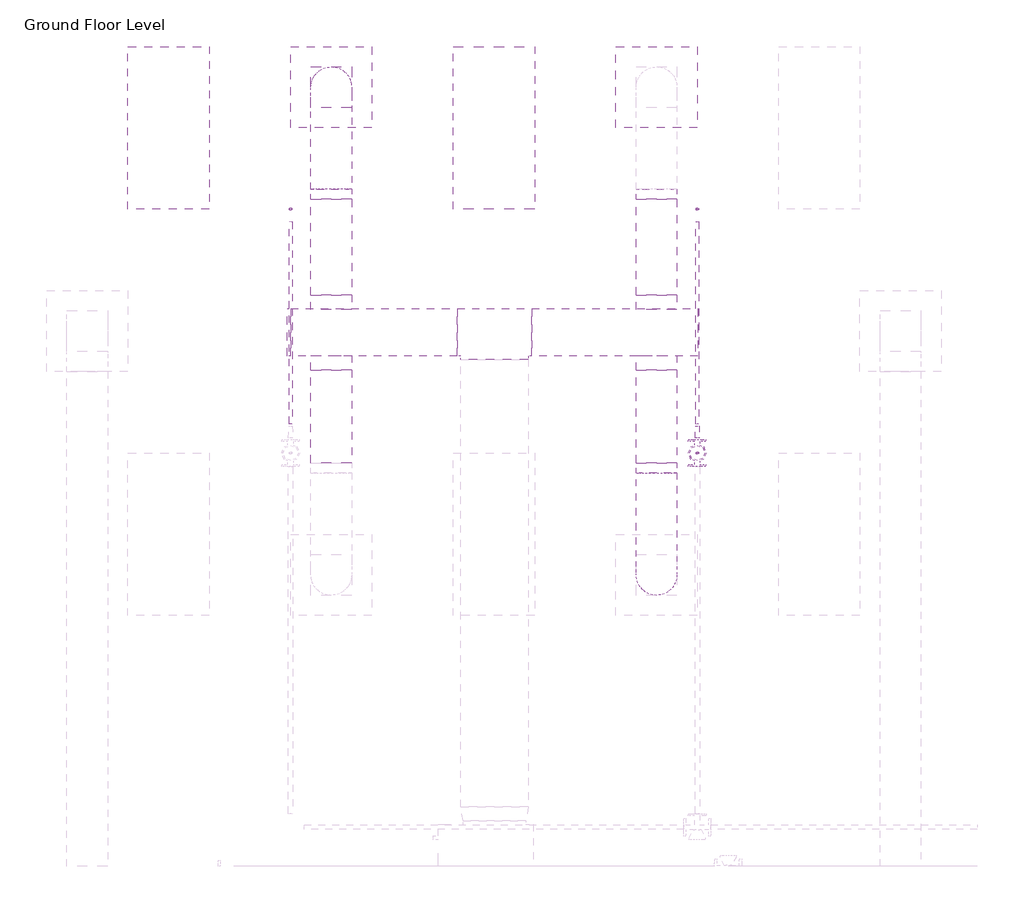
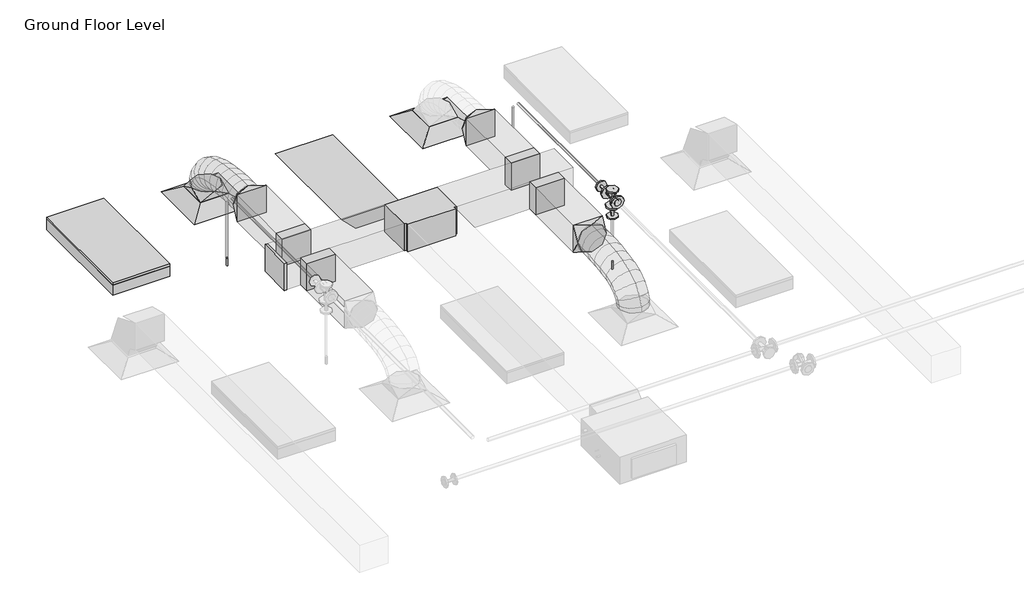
# One storey, part 55 of 74: 10 duct fittings, 8 duct segments, 5 pipe segments, 3 fire suppression terminals, 3 pipe fittings, 2 air terminals, 2 light fixtures.
"""IFC4 building model written with IfcOpenShell, lengths in millimetres."""

from ifc_helpers import new_model, si_unit, point, frame, frame_2d, origin, place, context, project, spatial, polyline, circle_curve, ellipse_curve, trimmed, segment, composite_curve, outline, extrude, transform, mapped, element, save
from ifc_brep_helpers import plane_surface, cylinder_surface, advanced_brep
from components import m_return_diffuser_600_x_600_face_300_x_300_connection_ff221211, m_rectangular_endcap_standard_eed78c44, m_rectangular_takeoff_standard_cb0ccb98, m_rectangular_takeoff_standard_2be5eba1, m_rectangular_tee_standard_9fc1ddf1, m_rectangular_to_round_transition_angle_45_degree_641efff0, m_sprinkler_dry_pendent_hosted_15_mm_dry_pendent_9bda8e11, m_emergency_recessed_lighting_fixture_600x1200_277_5b10b25d, m_troffer_light_parabolic_rectangular1_0600x1200mm_4_lamp_86473d4a, m_reducer_flanged_cs_class_150_standard_d42b2106, m_tee_round_base_flanged_cs_class_150_standard_7e5987a1

model = new_model("IFC4")

# Units and contexts
model_context = context("Model", 3, world=origin())
ifc_project = project(units=[si_unit("LENGTHUNIT", "METRE", prefix="MILLI")], contexts=[model_context])

# Site, building, storey
site = spatial("IfcSite", under=ifc_project)
building = spatial("IfcBuilding", under=site)
storey = spatial("IfcBuildingStorey", under=building, Name="Ground Floor Level", Elevation=900.0)

# Air terminals
placement = place(None, origin())
m_return_diffuser_600_x_600_face_300_x_300_connection_shape = m_return_diffuser_600_x_600_face_300_x_300_connection_ff221211(model_context)
element("IfcAirTerminal", 1, ObjectType="M_Supply Diffuser : 600 x 600 Face 300 x 300 Connection", at=placement, inside=storey, context=model_context, shape_type="MappedRepresentation", body=[
    mapped(m_return_diffuser_600_x_600_face_300_x_300_connection_shape, transform((-19137.2327605, 20535.2153534, 3650.0), x_axis=(1.0, 0.0, 0.0), y_axis=(0.0, 1.0, 0.0), z_axis=(0.0, 0.0, 1.0))),
])
element("IfcAirTerminal", 2, ObjectType="M_Supply Diffuser : 600 x 600 Face 300 x 300 Connection", at=placement, inside=storey, context=model_context, shape_type="MappedRepresentation", body=[
    mapped(m_return_diffuser_600_x_600_face_300_x_300_connection_shape, transform((-16737.2327605, 20535.2153534, 3650.0), x_axis=(1.0, 0.0, 0.0), y_axis=(0.0, 1.0, 0.0), z_axis=(0.0, 0.0, 1.0))),
])

# Duct fittings
m_rectangular_endcap_standard_shape = m_rectangular_endcap_standard_eed78c44(model_context)
element("IfcDuctFitting", 3, ObjectType="M_Rectangular Endcap : Standard", at=placement, inside=storey, context=model_context, shape_type="MappedRepresentation", body=[
    mapped(m_rectangular_endcap_standard_shape, transform((-19437.2326293, 18724.6783949, 4099.9991374), x_axis=(-0.9999999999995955, 0.0, -8.994654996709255e-07), y_axis=(0.0, -1.0000000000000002, 0.0), z_axis=(-8.994654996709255e-07, 0.0, 0.9999999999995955))),
])
m_rectangular_takeoff_standard_shape = m_rectangular_takeoff_standard_cb0ccb98(model_context)
element("IfcDuctFitting", 4, ObjectType="M_Rectangular Takeoff : Standard", at=placement, inside=storey, context=model_context, shape_type="MappedRepresentation", body=[
    mapped(m_rectangular_takeoff_standard_shape, transform((-16737.2327605, 18899.6783949, 4099.9993619), x_axis=(0.0, 1.0, 0.0), y_axis=(1.0, 0.0, 0.0), z_axis=(0.0, 0.0, -1.0))),
])
element("IfcDuctFitting", 5, ObjectType="M_Rectangular Takeoff : Standard", at=placement, inside=storey, context=model_context, shape_type="MappedRepresentation", body=[
    mapped(m_rectangular_takeoff_standard_shape, transform((-19137.2327605, 18549.6783949, 4099.9994072), x_axis=(0.0, -1.0, 0.0), y_axis=(-1.0, 0.0, 0.0), z_axis=(0.0, 0.0, -1.0))),
])
m_rectangular_takeoff_standard_2_shape = m_rectangular_takeoff_standard_2be5eba1(model_context)
element("IfcDuctFitting", 6, ObjectType="M_Rectangular Takeoff : Standard", at=placement, inside=storey, context=model_context, shape_type="MappedRepresentation", body=[
    mapped(m_rectangular_takeoff_standard_2_shape, transform((-19137.2327605, 18899.6783949, 4099.9994072), x_axis=(0.0, 1.0, 0.0), y_axis=(1.0, 0.0, 0.0), z_axis=(0.0, 0.0, -1.0))),
])
element("IfcDuctFitting", 7, ObjectType="M_Rectangular Takeoff : Standard", at=placement, inside=storey, context=model_context, shape_type="MappedRepresentation", body=[
    mapped(m_rectangular_takeoff_standard_2_shape, transform((-16737.2327605, 18549.6783949, 4099.9993619), x_axis=(0.0, -1.0, 0.0), y_axis=(-1.0, 0.0, 0.0), z_axis=(0.0, 0.0, -1.0))),
])
m_rectangular_tee_standard_shape = m_rectangular_tee_standard_9fc1ddf1(model_context)
element("IfcDuctFitting", 8, ObjectType="M_Rectangular Tee : Standard", at=placement, inside=storey, context=model_context, shape_type="MappedRepresentation", body=[
    mapped(m_rectangular_tee_standard_shape, transform((-17933.7327605, 18724.6783949, 4100.0001212), x_axis=(0.999999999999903, 0.0, -4.406637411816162e-07), y_axis=(-1.704451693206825e-12, 0.9999999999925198, -3.867919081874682e-06), z_axis=(4.406637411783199e-07, 3.867919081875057e-06, 0.9999999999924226))),
])
m_rectangular_to_round_transition_angle_45_degree_shape = m_rectangular_to_round_transition_angle_45_degree_641efff0(model_context)
element("IfcDuctFitting", 9, ObjectType="M_Rectangular to Round Transition - Angle : 45 Degree", at=placement, inside=storey, context=model_context, shape_type="MappedRepresentation", body=[
    mapped(m_rectangular_to_round_transition_angle_45_degree_shape, transform((-19137.2327605, 20535.2153534, 3751.6), x_axis=(0.0, 0.0, 1.0), y_axis=(-1.0, 0.0, 0.0), z_axis=(0.0, -1.0, 0.0))),
])
element("IfcDuctFitting", 10, ObjectType="M_Rectangular to Round Transition - Angle : 45 Degree", at=placement, inside=storey, context=model_context, shape_type="MappedRepresentation", body=[
    mapped(m_rectangular_to_round_transition_angle_45_degree_shape, transform((-19137.2327605, 19707.8788293, 4099.9994072), x_axis=(0.0, 1.0, 0.0), y_axis=(-1.0, 0.0, 0.0), z_axis=(0.0, 0.0, 1.0))),
])
element("IfcDuctFitting", 11, ObjectType="M_Rectangular to Round Transition - Angle : 45 Degree", at=placement, inside=storey, context=model_context, shape_type="MappedRepresentation", body=[
    mapped(m_rectangular_to_round_transition_angle_45_degree_shape, transform((-16737.2327605, 19707.878784, 4099.9993619), x_axis=(0.0, 1.0, 0.0), y_axis=(-1.0, 0.0, 0.0), z_axis=(0.0, 0.0, 1.0))),
])
element("IfcDuctFitting", 12, ObjectType="M_Rectangular to Round Transition - Angle : 45 Degree", at=placement, inside=storey, context=model_context, shape_type="MappedRepresentation", body=[
    mapped(m_rectangular_to_round_transition_angle_45_degree_shape, transform((-16737.2327605, 17762.5519228, 4099.9993619), x_axis=(0.0, -1.0, 0.0), y_axis=(1.0, 0.0, 0.0), z_axis=(0.0, 0.0, 1.0))),
])

# Duct segments
element("IfcDuctSegment", 13, ObjectType="Flex - Round", at=placement, inside=storey, context=model_context, shape_type="AdvancedBrep", body=[
    advanced_brep(
    [(-18987.2327605, 20535.2153534, 3826.6), (-19137.2327605, 20385.2153534, 3826.6), (-19287.2327605, 20535.2153534, 3826.6), (-19137.2327605, 20685.2153534, 3826.6), (-18987.2327605, 20535.2153534, 3857.9377363), (-19137.2327605, 20385.2153534, 3832.2944836), (-19287.2327605, 20535.2153534, 3857.9377363), (-19137.2327605, 20685.2153534, 3883.580989), (-18987.2327605, 20518.1994044, 3906.2505836), (-19137.2327605, 20384.4614628, 3834.4349814), (-19287.2327605, 20518.1994044, 3906.2505836), (-19137.2327605, 20651.937346, 3978.0661859), (-18987.2327605, 20471.0154793, 3968.711286), (-19137.2327605, 20366.8096815, 3857.8018941), (-19287.2327605, 20471.0154793, 3968.711286), (-19137.2327605, 20575.2212771, 4079.6206779), (-18987.2327605, 20399.4594609, 4016.0699627), (-19137.2327605, 20330.5255652, 3881.8161947), (-19287.2327605, 20399.4594609, 4016.0699627), (-19137.2327605, 20468.3933566, 4150.3237308), (-18987.2327605, 20309.327232, 4050.4144697), (-19137.2327605, 20265.7666436, 3906.4923095), (-19287.2327605, 20309.327232, 4050.4144697), (-19137.2327605, 20352.8878205, 4194.3366298), (-18987.2327605, 20206.4146755, 4073.8326625), (-19137.2327605, 20179.8539172, 3926.0421182), (-19287.2327605, 20206.4146755, 4073.8326625), (-19137.2327605, 20232.9754339, 4221.6232067), (-18987.2327605, 20096.5176742, 4088.4123969), (-19137.2327605, 20081.3669159, 3939.1081192), (-19287.2327605, 20096.5176742, 4088.4123969), (-19137.2327605, 20111.6684325, 4237.7166746), (-18987.2327605, 19985.4321108, 4096.2415287), (-19137.2327605, 19977.9268947, 3946.3984054), (-19287.2327605, 19985.4321108, 4096.2415287), (-19137.2327605, 19992.937327, 4246.0846519), (-18987.2327605, 19878.9538683, 4099.4079135), (-19137.2327605, 19876.262441, 3949.4216408), (-19287.2327605, 19878.9538683, 4099.4079135), (-19137.2327605, 19881.6452955, 4249.3941863), (-18987.2327605, 19782.8788293, 4099.9994072), (-19137.2327605, 19783.8022988, 4249.9965645), (-19287.2327605, 19782.8788293, 4099.9994072), (-19137.2327605, 19781.9553598, 3950.0022499)],
    [
        (0, 1, circle_curve(frame((-19137.2327605, 20535.2153534, 3826.6), z_axis=(0.0, 0.0, -1.0), x_axis=(1.0, 0.0, 0.0)), 150.0)),
        (1, 2, circle_curve(frame((-19137.2327605, 20535.2153534, 3826.6), z_axis=(0.0, 0.0, -1.0), x_axis=(1.0, 0.0, 0.0)), 150.0)),
        (2, 3, circle_curve(frame((-19137.2327605, 20535.2153534, 3826.6), z_axis=(0.0, 0.0, -1.0), x_axis=(1.0, 0.0, 0.0)), 150.0)),
        (3, 0, circle_curve(frame((-19137.2327605, 20535.2153534, 3826.6), z_axis=(0.0, 0.0, -1.0), x_axis=(1.0, 0.0, 0.0)), 150.0)),
        (0, 4),
        (4, 5, ellipse_curve(frame((-19137.2327605, 20535.2153534, 3857.9377363), z_axis=(0.0, 0.16851034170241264, -0.9856998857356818), x_axis=(0.0, -0.9856998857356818, -0.16851034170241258)), 152.1761361, 150.0)),
        (5, 1),
        (5, 6, ellipse_curve(frame((-19137.2327605, 20535.2153534, 3857.9377363), z_axis=(0.0, 0.16851034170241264, -0.9856998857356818), x_axis=(0.0, -0.9856998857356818, -0.16851034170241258)), 152.1761361, 150.0)),
        (6, 2),
        (6, 7, ellipse_curve(frame((-19137.2327605, 20535.2153534, 3857.9377363), z_axis=(0.0, 0.16851034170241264, -0.9856998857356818), x_axis=(0.0, -0.9856998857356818, -0.16851034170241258)), 152.1761361, 150.0)),
        (7, 3),
        (7, 4, ellipse_curve(frame((-19137.2327605, 20535.2153534, 3857.9377363), z_axis=(0.0, 0.16851034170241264, -0.9856998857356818), x_axis=(0.0, -0.9856998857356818, -0.16851034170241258)), 152.1761361, 150.0)),
        (4, 8),
        (8, 9, ellipse_curve(frame((-19137.2327605, 20518.1994044, 3906.2505836), z_axis=(0.0, 0.4730927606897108, -0.8810126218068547), x_axis=(0.0, -0.8810126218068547, -0.47309276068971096)), 151.8002561, 150.0)),
        (9, 5),
        (9, 10, ellipse_curve(frame((-19137.2327605, 20518.1994044, 3906.2505836), z_axis=(0.0, 0.4730927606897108, -0.8810126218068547), x_axis=(0.0, -0.8810126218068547, -0.47309276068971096)), 151.8002561, 150.0)),
        (10, 6),
        (10, 11, ellipse_curve(frame((-19137.2327605, 20518.1994044, 3906.2505836), z_axis=(0.0, 0.4730927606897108, -0.8810126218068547), x_axis=(0.0, -0.8810126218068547, -0.47309276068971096)), 151.8002561, 150.0)),
        (11, 7),
        (11, 8, ellipse_curve(frame((-19137.2327605, 20518.1994044, 3906.2505836), z_axis=(0.0, 0.4730927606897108, -0.8810126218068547), x_axis=(0.0, -0.8810126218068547, -0.47309276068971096)), 151.8002561, 150.0)),
        (8, 12),
        (12, 13, ellipse_curve(frame((-19137.2327605, 20471.0154793, 3968.711286), z_axis=(0.0, 0.7287884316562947, -0.6847389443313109), x_axis=(0.0, -0.6847389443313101, -0.7287884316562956)), 152.1832498, 150.0)),
        (13, 9),
        (13, 14, ellipse_curve(frame((-19137.2327605, 20471.0154793, 3968.711286), z_axis=(0.0, 0.7287884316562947, -0.6847389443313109), x_axis=(0.0, -0.6847389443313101, -0.7287884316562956)), 152.1832498, 150.0)),
        (14, 10),
        (14, 15, ellipse_curve(frame((-19137.2327605, 20471.0154793, 3968.711286), z_axis=(0.0, 0.7287884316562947, -0.6847389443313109), x_axis=(0.0, -0.6847389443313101, -0.7287884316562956)), 152.1832498, 150.0)),
        (15, 11),
        (15, 12, ellipse_curve(frame((-19137.2327605, 20471.0154793, 3968.711286), z_axis=(0.0, 0.7287884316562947, -0.6847389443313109), x_axis=(0.0, -0.6847389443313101, -0.7287884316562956)), 152.1832498, 150.0)),
        (12, 16),
        (16, 17, ellipse_curve(frame((-19137.2327605, 20399.4594609, 4016.0699627), z_axis=(0.0, 0.8895864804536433, -0.45676678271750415), x_axis=(0.0, -0.4567667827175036, -0.8895864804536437)), 150.9170508, 150.0)),
        (17, 13),
        (17, 18, ellipse_curve(frame((-19137.2327605, 20399.4594609, 4016.0699627), z_axis=(0.0, 0.8895864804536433, -0.45676678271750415), x_axis=(0.0, -0.4567667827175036, -0.8895864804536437)), 150.9170508, 150.0)),
        (18, 14),
        (18, 19, ellipse_curve(frame((-19137.2327605, 20399.4594609, 4016.0699627), z_axis=(0.0, 0.8895864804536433, -0.45676678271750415), x_axis=(0.0, -0.4567667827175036, -0.8895864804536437)), 150.9170508, 150.0)),
        (19, 15),
        (19, 16, ellipse_curve(frame((-19137.2327605, 20399.4594609, 4016.0699627), z_axis=(0.0, 0.8895864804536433, -0.45676678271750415), x_axis=(0.0, -0.4567667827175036, -0.8895864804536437)), 150.9170508, 150.0)),
        (16, 20),
        (20, 21, ellipse_curve(frame((-19137.2327605, 20309.327232, 4050.4144697), z_axis=(0.0, 0.9571206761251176, -0.28968950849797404), x_axis=(0.0, -0.2896895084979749, -0.9571206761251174)), 150.3699207, 150.0)),
        (21, 17),
        (21, 22, ellipse_curve(frame((-19137.2327605, 20309.327232, 4050.4144697), z_axis=(0.0, 0.9571206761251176, -0.28968950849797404), x_axis=(0.0, -0.2896895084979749, -0.9571206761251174)), 150.3699207, 150.0)),
        (22, 18),
        (22, 23, ellipse_curve(frame((-19137.2327605, 20309.327232, 4050.4144697), z_axis=(0.0, 0.9571206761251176, -0.28968950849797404), x_axis=(0.0, -0.2896895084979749, -0.9571206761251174)), 150.3699207, 150.0)),
        (23, 19),
        (23, 20, ellipse_curve(frame((-19137.2327605, 20309.327232, 4050.4144697), z_axis=(0.0, 0.9571206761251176, -0.28968950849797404), x_axis=(0.0, -0.2896895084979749, -0.9571206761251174)), 150.3699207, 150.0)),
        (20, 24),
        (24, 25, ellipse_curve(frame((-19137.2327605, 20206.4146755, 4073.8326625), z_axis=(0.0, 0.9842315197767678, -0.17688503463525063), x_axis=(0.0, -0.17688503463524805, -0.9842315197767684)), 150.1583126, 150.0)),
        (25, 21),
        (25, 26, ellipse_curve(frame((-19137.2327605, 20206.4146755, 4073.8326625), z_axis=(0.0, 0.9842315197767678, -0.17688503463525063), x_axis=(0.0, -0.17688503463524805, -0.9842315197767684)), 150.1583126, 150.0)),
        (26, 22),
        (26, 27, ellipse_curve(frame((-19137.2327605, 20206.4146755, 4073.8326625), z_axis=(0.0, 0.9842315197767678, -0.17688503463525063), x_axis=(0.0, -0.17688503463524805, -0.9842315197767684)), 150.1583126, 150.0)),
        (27, 23),
        (27, 24, ellipse_curve(frame((-19137.2327605, 20206.4146755, 4073.8326625), z_axis=(0.0, 0.9842315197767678, -0.17688503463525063), x_axis=(0.0, -0.17688503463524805, -0.9842315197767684)), 150.1583126, 150.0)),
        (24, 28),
        (28, 29, ellipse_curve(frame((-19137.2327605, 20096.5176742, 4088.4123969), z_axis=(0.0, 0.994890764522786, -0.10095725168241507), x_axis=(0.0, -0.10095725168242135, -0.9948907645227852)), 150.0710259, 150.0)),
        (29, 25),
        (29, 30, ellipse_curve(frame((-19137.2327605, 20096.5176742, 4088.4123969), z_axis=(0.0, 0.994890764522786, -0.10095725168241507), x_axis=(0.0, -0.10095725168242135, -0.9948907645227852)), 150.0710259, 150.0)),
        (30, 26),
        (30, 31, ellipse_curve(frame((-19137.2327605, 20096.5176742, 4088.4123969), z_axis=(0.0, 0.994890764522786, -0.10095725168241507), x_axis=(0.0, -0.10095725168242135, -0.9948907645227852)), 150.0710259, 150.0)),
        (31, 27),
        (31, 28, ellipse_curve(frame((-19137.2327605, 20096.5176742, 4088.4123969), z_axis=(0.0, 0.994890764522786, -0.10095725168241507), x_axis=(0.0, -0.10095725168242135, -0.9948907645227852)), 150.0710259, 150.0)),
        (28, 32),
        (32, 33, ellipse_curve(frame((-19137.2327605, 19985.4321108, 4096.2415287), z_axis=(0.0, 0.9987479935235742, -0.05002444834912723), x_axis=(0.0, -0.05002444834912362, -0.9987479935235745)), 150.030963, 150.0)),
        (33, 29),
        (33, 34, ellipse_curve(frame((-19137.2327605, 19985.4321108, 4096.2415287), z_axis=(0.0, 0.9987479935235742, -0.05002444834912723), x_axis=(0.0, -0.05002444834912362, -0.9987479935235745)), 150.030963, 150.0)),
        (34, 30),
        (34, 35, ellipse_curve(frame((-19137.2327605, 19985.4321108, 4096.2415287), z_axis=(0.0, 0.9987479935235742, -0.05002444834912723), x_axis=(0.0, -0.05002444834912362, -0.9987479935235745)), 150.030963, 150.0)),
        (35, 31),
        (35, 32, ellipse_curve(frame((-19137.2327605, 19985.4321108, 4096.2415287), z_axis=(0.0, 0.9987479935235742, -0.05002444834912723), x_axis=(0.0, -0.05002444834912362, -0.9987479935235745)), 150.030963, 150.0)),
        (32, 36),
        (36, 37, ellipse_curve(frame((-19137.2327605, 19878.9538683, 4099.4079135), z_axis=(0.0, 0.9998390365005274, -0.017941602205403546), x_axis=(0.0, -0.01794160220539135, -0.9998390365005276)), 150.0104189, 150.0)),
        (37, 33),
        (37, 38, ellipse_curve(frame((-19137.2327605, 19878.9538683, 4099.4079135), z_axis=(0.0, 0.9998390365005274, -0.017941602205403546), x_axis=(0.0, -0.01794160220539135, -0.9998390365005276)), 150.0104189, 150.0)),
        (38, 34),
        (38, 39, ellipse_curve(frame((-19137.2327605, 19878.9538683, 4099.4079135), z_axis=(0.0, 0.9998390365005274, -0.017941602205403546), x_axis=(0.0, -0.01794160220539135, -0.9998390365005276)), 150.0104189, 150.0)),
        (39, 35),
        (39, 36, ellipse_curve(frame((-19137.2327605, 19878.9538683, 4099.4079135), z_axis=(0.0, 0.9998390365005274, -0.017941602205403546), x_axis=(0.0, -0.01794160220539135, -0.9998390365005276)), 150.0104189, 150.0)),
        (40, 41, circle_curve(frame((-19137.2327605, 19782.8788293, 4099.9994072), z_axis=(0.0, -0.9999810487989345, 0.006156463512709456), x_axis=(1.0, 0.0, 0.0)), 150.0)),
        (41, 42, circle_curve(frame((-19137.2327605, 19782.8788293, 4099.9994072), z_axis=(0.0, -0.9999810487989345, 0.006156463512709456), x_axis=(1.0, 0.0, 0.0)), 150.0)),
        (42, 43, circle_curve(frame((-19137.2327605, 19782.8788293, 4099.9994072), z_axis=(0.0, -0.9999810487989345, 0.006156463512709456), x_axis=(1.0, 0.0, 0.0)), 150.0)),
        (43, 40, circle_curve(frame((-19137.2327605, 19782.8788293, 4099.9994072), z_axis=(0.0, -0.9999810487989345, 0.006156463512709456), x_axis=(1.0, 0.0, 0.0)), 150.0)),
        (36, 40),
        (43, 37),
        (42, 38),
        (41, 39),
    ],
    [
        plane_surface(frame((-19137.2327605, 20385.2153534, 3826.6), z_axis=(0.0, 0.0, -1.0), x_axis=(1.0, 0.0, 0.0))),
        cylinder_surface(frame((-19137.2327605, 20535.2153534, 3826.6), z_axis=(0.0, 0.0, -1.0), x_axis=(1.0, 0.0, 0.0)), 150.0),
        cylinder_surface(frame((-19137.2327605, 20535.2153534, 3857.9377363), z_axis=(0.0, 0.33220124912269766, -0.9432085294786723), x_axis=(1.0, 0.0, 0.0)), 150.0),
        cylinder_surface(frame((-19137.2327605, 20518.1994044, 3906.2505836), z_axis=(0.0, 0.602763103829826, -0.7979201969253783), x_axis=(1.0, 0.0, 0.0)), 150.0),
        cylinder_surface(frame((-19137.2327605, 20471.0154793, 3968.711286), z_axis=(0.0, 0.8339030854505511, -0.5519109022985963), x_axis=(1.0, 0.0, 0.0)), 150.0),
        cylinder_surface(frame((-19137.2327605, 20399.4594609, 4016.0699627), z_axis=(0.0, 0.9344586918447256, -0.3560715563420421), x_axis=(1.0, 0.0, 0.0)), 150.0),
        cylinder_surface(frame((-19137.2327605, 20309.327232, 4050.4144697), z_axis=(0.0, 0.9750734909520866, -0.22188214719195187), x_axis=(1.0, 0.0, 0.0)), 150.0),
        cylinder_surface(frame((-19137.2327605, 20206.4146755, 4073.8326625), z_axis=(0.0, 0.9913141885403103, -0.1315149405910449), x_axis=(1.0, 0.0, 0.0)), 150.0),
        cylinder_surface(frame((-19137.2327605, 20096.5176742, 4088.4123969), z_axis=(0.0, 0.9975256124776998, -0.07030400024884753), x_axis=(1.0, 0.0, 0.0)), 150.0),
        cylinder_surface(frame((-19137.2327605, 19985.4321108, 4096.2415287), z_axis=(0.0, 0.9995581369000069, -0.029724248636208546), x_axis=(1.0, 0.0, 0.0)), 150.0),
        plane_surface(frame((-19137.2327605, 19781.9553598, 3950.0022499), z_axis=(0.0, -0.9999810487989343, 0.0061564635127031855), x_axis=(1.0, 0.0, 0.0))),
        cylinder_surface(frame((-19137.2327605, 19878.9538683, 4099.4079135), z_axis=(0.0, 0.9999810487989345, -0.006156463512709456), x_axis=(1.0, 0.0, 0.0)), 150.0),
    ],
    [
        (0, [[1, 2, 3, 4]]),
        (1, [[-1, 5, 6, 7]]),
        (1, [[-2, -7, 8, 9]]),
        (1, [[-3, -9, 10, 11]]),
        (1, [[-4, -11, 12, -5]]),
        (2, [[-6, 13, 14, 15]]),
        (2, [[-8, -15, 16, 17]]),
        (2, [[-10, -17, 18, 19]]),
        (2, [[-12, -19, 20, -13]]),
        (3, [[-14, 21, 22, 23]]),
        (3, [[-16, -23, 24, 25]]),
        (3, [[-18, -25, 26, 27]]),
        (3, [[-20, -27, 28, -21]]),
        (4, [[-22, 29, 30, 31]]),
        (4, [[-24, -31, 32, 33]]),
        (4, [[-26, -33, 34, 35]]),
        (4, [[-28, -35, 36, -29]]),
        (5, [[-30, 37, 38, 39]]),
        (5, [[-32, -39, 40, 41]]),
        (5, [[-34, -41, 42, 43]]),
        (5, [[-36, -43, 44, -37]]),
        (6, [[-38, 45, 46, 47]]),
        (6, [[-40, -47, 48, 49]]),
        (6, [[-42, -49, 50, 51]]),
        (6, [[-44, -51, 52, -45]]),
        (7, [[-46, 53, 54, 55]]),
        (7, [[-48, -55, 56, 57]]),
        (7, [[-50, -57, 58, 59]]),
        (7, [[-52, -59, 60, -53]]),
        (8, [[-54, 61, 62, 63]]),
        (8, [[-56, -63, 64, 65]]),
        (8, [[-58, -65, 66, 67]]),
        (8, [[-60, -67, 68, -61]]),
        (9, [[-62, 69, 70, 71]]),
        (9, [[-64, -71, 72, 73]]),
        (9, [[-66, -73, 74, 75]]),
        (9, [[-68, -75, 76, -69]]),
        (10, [[77, 78, 79, 80]]),
        (11, [[-70, 81, -80, 82]]),
        (11, [[-72, -82, -79, 83]]),
        (11, [[-74, -83, -78, 84]]),
        (11, [[-76, -84, -77, -81]]),
    ],
),
])
element("IfcDuctSegment", 14, ObjectType="Flex - Round", at=placement, inside=storey, context=model_context, shape_type="AdvancedBrep", body=[
    advanced_brep(
    [(-16587.2327605, 16935.2153534, 3826.6), (-16737.2327605, 16785.2153534, 3826.6), (-16887.2327605, 16935.2153534, 3826.6), (-16737.2327605, 17085.2153534, 3826.6), (-16587.2327605, 16935.2153534, 3857.9377382), (-16737.2327605, 16785.2153534, 3883.5809933), (-16887.2327605, 16935.2153534, 3857.9377382), (-16737.2327605, 17085.2153534, 3832.2944832), (-16587.2327605, 16952.2313036, 3906.2505845), (-16737.2327605, 16818.4933649, 3978.0661927), (-16887.2327605, 16952.2313036, 3906.2505845), (-16737.2327605, 17085.9692424, 3834.4349763), (-16587.2327605, 16999.4152322, 3968.7112839), (-16737.2327605, 16895.2094421, 4079.6206836), (-16887.2327605, 16999.4152322, 3968.7112839), (-16737.2327605, 17103.6210222, 3857.8018842), (-16587.2327605, 17070.9712556, 4016.069955), (-16737.2327605, 17002.0373721, 4150.3237294), (-16887.2327605, 17070.9712556, 4016.069955), (-16737.2327605, 17139.9051391, 3881.8161806), (-16587.2327605, 17161.1034906, 4050.4144545), (-16737.2327605, 17117.5429156, 4194.3366186), (-16887.2327605, 17161.1034906, 4050.4144545), (-16737.2327605, 17204.6640657, 3906.4922903), (-16587.2327605, 17264.0160539, 4073.832639), (-16737.2327605, 17237.4553083, 4221.6231855), (-16887.2327605, 17264.0160539, 4073.832639), (-16737.2327605, 17290.5767996, 3926.0420925), (-16587.2327605, 17373.9130621, 4088.4123653), (-16737.2327605, 17358.7623148, 4237.7166441), (-16887.2327605, 17373.9130621, 4088.4123653), (-16737.2327605, 17389.0638095, 3939.1080865), (-16587.2327605, 17484.9986319, 4096.2414901), (-16737.2327605, 17477.4934243, 4246.0846137), (-16887.2327605, 17484.9986319, 4096.2414901), (-16737.2327605, 17492.5038395, 3946.3983665), (-16587.2327605, 17591.4768799, 4099.4078701), (-16737.2327605, 17588.7854577, 4249.3941429), (-16887.2327605, 17591.4768799, 4099.4078701), (-16737.2327605, 17594.1683021, 3949.4215972), (-16587.2327605, 17687.5519228, 4099.9993619), (-16737.2327605, 17688.4753894, 3950.0022045), (-16887.2327605, 17687.5519228, 4099.9993619), (-16737.2327605, 17686.6284562, 4249.9965192)],
    [
        (0, 1, circle_curve(frame((-16737.2327605, 16935.2153534, 3826.6), z_axis=(0.0, 0.0, -1.0), x_axis=(1.0, 0.0, 0.0)), 150.0)),
        (1, 2, circle_curve(frame((-16737.2327605, 16935.2153534, 3826.6), z_axis=(0.0, 0.0, -1.0), x_axis=(1.0, 0.0, 0.0)), 150.0)),
        (2, 3, circle_curve(frame((-16737.2327605, 16935.2153534, 3826.6), z_axis=(0.0, 0.0, -1.0), x_axis=(1.0, 0.0, 0.0)), 150.0)),
        (3, 0, circle_curve(frame((-16737.2327605, 16935.2153534, 3826.6), z_axis=(0.0, 0.0, -1.0), x_axis=(1.0, 0.0, 0.0)), 150.0)),
        (0, 4),
        (4, 5, ellipse_curve(frame((-16737.2327605, 16935.2153534, 3857.9377382), z_axis=(0.0, -0.16851035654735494, -0.9856998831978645), x_axis=(0.0, 0.9856998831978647, -0.16851035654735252)), 152.1761365, 150.0)),
        (5, 1),
        (5, 6, ellipse_curve(frame((-16737.2327605, 16935.2153534, 3857.9377382), z_axis=(0.0, -0.16851035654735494, -0.9856998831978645), x_axis=(0.0, 0.9856998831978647, -0.16851035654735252)), 152.1761365, 150.0)),
        (6, 2),
        (6, 7, ellipse_curve(frame((-16737.2327605, 16935.2153534, 3857.9377382), z_axis=(0.0, -0.16851035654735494, -0.9856998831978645), x_axis=(0.0, 0.9856998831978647, -0.16851035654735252)), 152.1761365, 150.0)),
        (7, 3),
        (7, 4, ellipse_curve(frame((-16737.2327605, 16935.2153534, 3857.9377382), z_axis=(0.0, -0.16851035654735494, -0.9856998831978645), x_axis=(0.0, 0.9856998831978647, -0.16851035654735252)), 152.1761365, 150.0)),
        (4, 8),
        (8, 9, ellipse_curve(frame((-16737.2327605, 16952.2313036, 3906.2505845), z_axis=(0.0, -0.47309279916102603, -0.8810126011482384), x_axis=(0.0, 0.8810126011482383, -0.4730927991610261)), 151.8002564, 150.0)),
        (9, 5),
        (9, 10, ellipse_curve(frame((-16737.2327605, 16952.2313036, 3906.2505845), z_axis=(0.0, -0.47309279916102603, -0.8810126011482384), x_axis=(0.0, 0.8810126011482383, -0.4730927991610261)), 151.8002564, 150.0)),
        (10, 6),
        (10, 11, ellipse_curve(frame((-16737.2327605, 16952.2313036, 3906.2505845), z_axis=(0.0, -0.47309279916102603, -0.8810126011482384), x_axis=(0.0, 0.8810126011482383, -0.4730927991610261)), 151.8002564, 150.0)),
        (11, 7),
        (11, 8, ellipse_curve(frame((-16737.2327605, 16952.2313036, 3906.2505845), z_axis=(0.0, -0.47309279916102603, -0.8810126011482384), x_axis=(0.0, 0.8810126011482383, -0.4730927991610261)), 151.8002564, 150.0)),
        (8, 12),
        (12, 13, ellipse_curve(frame((-16737.2327605, 16999.4152322, 3968.7112839), z_axis=(0.0, -0.7287884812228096, -0.6847388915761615), x_axis=(0.0, 0.6847388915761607, -0.7287884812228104)), 152.1832501, 150.0)),
        (13, 9),
        (13, 14, ellipse_curve(frame((-16737.2327605, 16999.4152322, 3968.7112839), z_axis=(0.0, -0.7287884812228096, -0.6847388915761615), x_axis=(0.0, 0.6847388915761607, -0.7287884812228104)), 152.1832501, 150.0)),
        (14, 10),
        (14, 15, ellipse_curve(frame((-16737.2327605, 16999.4152322, 3968.7112839), z_axis=(0.0, -0.7287884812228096, -0.6847388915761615), x_axis=(0.0, 0.6847388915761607, -0.7287884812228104)), 152.1832501, 150.0)),
        (15, 11),
        (15, 12, ellipse_curve(frame((-16737.2327605, 16999.4152322, 3968.7112839), z_axis=(0.0, -0.7287884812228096, -0.6847388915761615), x_axis=(0.0, 0.6847388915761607, -0.7287884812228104)), 152.1832501, 150.0)),
        (12, 16),
        (16, 17, ellipse_curve(frame((-16737.2327605, 17070.9712556, 4016.069955), z_axis=(0.0, -0.8895865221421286, -0.4567667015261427), x_axis=(0.0, 0.45676670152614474, -0.8895865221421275)), 150.9170508, 150.0)),
        (17, 13),
        (17, 18, ellipse_curve(frame((-16737.2327605, 17070.9712556, 4016.069955), z_axis=(0.0, -0.8895865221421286, -0.4567667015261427), x_axis=(0.0, 0.45676670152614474, -0.8895865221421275)), 150.9170508, 150.0)),
        (18, 14),
        (18, 19, ellipse_curve(frame((-16737.2327605, 17070.9712556, 4016.069955), z_axis=(0.0, -0.8895865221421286, -0.4567667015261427), x_axis=(0.0, 0.45676670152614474, -0.8895865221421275)), 150.9170508, 150.0)),
        (19, 15),
        (19, 16, ellipse_curve(frame((-16737.2327605, 17070.9712556, 4016.069955), z_axis=(0.0, -0.8895865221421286, -0.4567667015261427), x_axis=(0.0, 0.45676670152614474, -0.8895865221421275)), 150.9170508, 150.0)),
        (16, 20),
        (20, 21, ellipse_curve(frame((-16737.2327605, 17161.1034906, 4050.4144545), z_axis=(0.0, -0.9571207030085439, -0.289689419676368), x_axis=(0.0, 0.28968941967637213, -0.9571207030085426)), 150.3699206, 150.0)),
        (21, 17),
        (21, 22, ellipse_curve(frame((-16737.2327605, 17161.1034906, 4050.4144545), z_axis=(0.0, -0.9571207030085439, -0.289689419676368), x_axis=(0.0, 0.28968941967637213, -0.9571207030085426)), 150.3699206, 150.0)),
        (22, 18),
        (22, 23, ellipse_curve(frame((-16737.2327605, 17161.1034906, 4050.4144545), z_axis=(0.0, -0.9571207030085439, -0.289689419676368), x_axis=(0.0, 0.28968941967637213, -0.9571207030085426)), 150.3699206, 150.0)),
        (23, 19),
        (23, 20, ellipse_curve(frame((-16737.2327605, 17161.1034906, 4050.4144545), z_axis=(0.0, -0.9571207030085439, -0.289689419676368), x_axis=(0.0, 0.28968941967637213, -0.9571207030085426)), 150.3699206, 150.0)),
        (20, 24),
        (24, 25, ellipse_curve(frame((-16737.2327605, 17264.0160539, 4073.832639), z_axis=(0.0, -0.9842315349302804, -0.17688495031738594), x_axis=(0.0, 0.17688495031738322, -0.9842315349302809)), 150.1583126, 150.0)),
        (25, 21),
        (25, 26, ellipse_curve(frame((-16737.2327605, 17264.0160539, 4073.832639), z_axis=(0.0, -0.9842315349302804, -0.17688495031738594), x_axis=(0.0, 0.17688495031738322, -0.9842315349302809)), 150.1583126, 150.0)),
        (26, 22),
        (26, 27, ellipse_curve(frame((-16737.2327605, 17264.0160539, 4073.832639), z_axis=(0.0, -0.9842315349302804, -0.17688495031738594), x_axis=(0.0, 0.17688495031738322, -0.9842315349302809)), 150.1583126, 150.0)),
        (27, 23),
        (27, 24, ellipse_curve(frame((-16737.2327605, 17264.0160539, 4073.832639), z_axis=(0.0, -0.9842315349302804, -0.17688495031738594), x_axis=(0.0, 0.17688495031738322, -0.9842315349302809)), 150.1583126, 150.0)),
        (24, 28),
        (28, 29, ellipse_curve(frame((-16737.2327605, 17373.9130621, 4088.4123653), z_axis=(0.0, -0.9948907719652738, -0.10095717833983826), x_axis=(0.0, 0.10095717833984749, -0.9948907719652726)), 150.0710259, 150.0)),
        (29, 25),
        (29, 30, ellipse_curve(frame((-16737.2327605, 17373.9130621, 4088.4123653), z_axis=(0.0, -0.9948907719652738, -0.10095717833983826), x_axis=(0.0, 0.10095717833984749, -0.9948907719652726)), 150.0710259, 150.0)),
        (30, 26),
        (30, 31, ellipse_curve(frame((-16737.2327605, 17373.9130621, 4088.4123653), z_axis=(0.0, -0.9948907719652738, -0.10095717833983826), x_axis=(0.0, 0.10095717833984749, -0.9948907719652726)), 150.0710259, 150.0)),
        (31, 27),
        (31, 28, ellipse_curve(frame((-16737.2327605, 17373.9130621, 4088.4123653), z_axis=(0.0, -0.9948907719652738, -0.10095717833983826), x_axis=(0.0, 0.10095717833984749, -0.9948907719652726)), 150.0710259, 150.0)),
        (28, 32),
        (32, 33, ellipse_curve(frame((-16737.2327605, 17484.9986319, 4096.2414901), z_axis=(0.0, -0.9987479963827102, -0.05002439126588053), x_axis=(0.0, 0.050024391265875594, -0.9987479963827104)), 150.0309629, 150.0)),
        (33, 29),
        (33, 34, ellipse_curve(frame((-16737.2327605, 17484.9986319, 4096.2414901), z_axis=(0.0, -0.9987479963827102, -0.05002439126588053), x_axis=(0.0, 0.050024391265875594, -0.9987479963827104)), 150.0309629, 150.0)),
        (34, 30),
        (34, 35, ellipse_curve(frame((-16737.2327605, 17484.9986319, 4096.2414901), z_axis=(0.0, -0.9987479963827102, -0.05002439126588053), x_axis=(0.0, 0.050024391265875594, -0.9987479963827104)), 150.0309629, 150.0)),
        (35, 31),
        (35, 32, ellipse_curve(frame((-16737.2327605, 17484.9986319, 4096.2414901), z_axis=(0.0, -0.9987479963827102, -0.05002439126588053), x_axis=(0.0, 0.050024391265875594, -0.9987479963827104)), 150.0309629, 150.0)),
        (32, 36),
        (36, 37, ellipse_curve(frame((-16737.2327605, 17591.4768799, 4099.4078701), z_axis=(0.0, -0.9998390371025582, -0.01794156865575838), x_axis=(0.0, 0.017941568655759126, -0.9998390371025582)), 150.0104189, 150.0)),
        (37, 33),
        (37, 38, ellipse_curve(frame((-16737.2327605, 17591.4768799, 4099.4078701), z_axis=(0.0, -0.9998390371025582, -0.01794156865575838), x_axis=(0.0, 0.017941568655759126, -0.9998390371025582)), 150.0104189, 150.0)),
        (38, 34),
        (38, 39, ellipse_curve(frame((-16737.2327605, 17591.4768799, 4099.4078701), z_axis=(0.0, -0.9998390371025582, -0.01794156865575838), x_axis=(0.0, 0.017941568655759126, -0.9998390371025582)), 150.0104189, 150.0)),
        (39, 35),
        (39, 36, ellipse_curve(frame((-16737.2327605, 17591.4768799, 4099.4078701), z_axis=(0.0, -0.9998390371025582, -0.01794156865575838), x_axis=(0.0, 0.017941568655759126, -0.9998390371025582)), 150.0104189, 150.0)),
        (40, 41, circle_curve(frame((-16737.2327605, 17687.5519228, 4099.9993619), z_axis=(0.0, 0.9999810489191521, 0.006156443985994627), x_axis=(1.0, 0.0, 0.0)), 150.0)),
        (41, 42, circle_curve(frame((-16737.2327605, 17687.5519228, 4099.9993619), z_axis=(0.0, 0.9999810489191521, 0.006156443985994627), x_axis=(1.0, 0.0, 0.0)), 150.0)),
        (42, 43, circle_curve(frame((-16737.2327605, 17687.5519228, 4099.9993619), z_axis=(0.0, 0.9999810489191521, 0.006156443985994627), x_axis=(1.0, 0.0, 0.0)), 150.0)),
        (43, 40, circle_curve(frame((-16737.2327605, 17687.5519228, 4099.9993619), z_axis=(0.0, 0.9999810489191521, 0.006156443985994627), x_axis=(1.0, 0.0, 0.0)), 150.0)),
        (36, 40),
        (43, 37),
        (42, 38),
        (41, 39),
    ],
    [
        plane_surface(frame((-16737.2327605, 16785.2153534, 3826.6), z_axis=(0.0, 0.0, -1.0), x_axis=(1.0, 0.0, 0.0))),
        cylinder_surface(frame((-16737.2327605, 16935.2153534, 3826.6), z_axis=(0.0, 0.0, -1.0), x_axis=(1.0, 0.0, 0.0)), 150.0),
        cylinder_surface(frame((-16737.2327605, 16935.2153534, 3857.9377382), z_axis=(0.0, -0.3322012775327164, -0.9432085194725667), x_axis=(1.0, 0.0, 0.0)), 150.0),
        cylinder_surface(frame((-16737.2327605, 16952.2313036, 3906.2505845), z_axis=(0.0, -0.6027631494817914, -0.7979201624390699), x_axis=(1.0, 0.0, 0.0)), 150.0),
        cylinder_surface(frame((-16737.2327605, 16999.4152322, 3968.7112839), z_axis=(0.0, -0.8339031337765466, -0.5519108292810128), x_axis=(1.0, 0.0, 0.0)), 150.0),
        cylinder_surface(frame((-16737.2327605, 17070.9712556, 4016.069955), z_axis=(0.0, -0.9344587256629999, -0.35607146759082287), x_axis=(1.0, 0.0, 0.0)), 150.0),
        cylinder_surface(frame((-16737.2327605, 17161.1034906, 4050.4144545), z_axis=(0.0, -0.9750735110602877, -0.2218820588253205), x_axis=(1.0, 0.0, 0.0)), 150.0),
        cylinder_surface(frame((-16737.2327605, 17264.0160539, 4073.832639), z_axis=(0.0, -0.9913141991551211, -0.1315148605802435), x_axis=(1.0, 0.0, 0.0)), 150.0),
        cylinder_surface(frame((-16737.2327605, 17373.9130621, 4088.4123653), z_axis=(0.0, -0.9975256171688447, -0.07030393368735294), x_axis=(1.0, 0.0, 0.0)), 150.0),
        cylinder_surface(frame((-16737.2327605, 17484.9986319, 4096.2414901), z_axis=(0.0, -0.999558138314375, -0.029724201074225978), x_axis=(1.0, 0.0, 0.0)), 150.0),
        plane_surface(frame((-16737.2327605, 17686.6284562, 4249.9965192), z_axis=(0.0, 0.999981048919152, 0.0061564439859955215), x_axis=(1.0, 0.0, 0.0))),
        cylinder_surface(frame((-16737.2327605, 17591.4768799, 4099.4078701), z_axis=(0.0, -0.9999810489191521, -0.006156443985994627), x_axis=(1.0, 0.0, 0.0)), 150.0),
    ],
    [
        (0, [[1, 2, 3, 4]]),
        (1, [[-1, 5, 6, 7]]),
        (1, [[-2, -7, 8, 9]]),
        (1, [[-3, -9, 10, 11]]),
        (1, [[-4, -11, 12, -5]]),
        (2, [[-6, 13, 14, 15]]),
        (2, [[-8, -15, 16, 17]]),
        (2, [[-10, -17, 18, 19]]),
        (2, [[-12, -19, 20, -13]]),
        (3, [[-14, 21, 22, 23]]),
        (3, [[-16, -23, 24, 25]]),
        (3, [[-18, -25, 26, 27]]),
        (3, [[-20, -27, 28, -21]]),
        (4, [[-22, 29, 30, 31]]),
        (4, [[-24, -31, 32, 33]]),
        (4, [[-26, -33, 34, 35]]),
        (4, [[-28, -35, 36, -29]]),
        (5, [[-30, 37, 38, 39]]),
        (5, [[-32, -39, 40, 41]]),
        (5, [[-34, -41, 42, 43]]),
        (5, [[-36, -43, 44, -37]]),
        (6, [[-38, 45, 46, 47]]),
        (6, [[-40, -47, 48, 49]]),
        (6, [[-42, -49, 50, 51]]),
        (6, [[-44, -51, 52, -45]]),
        (7, [[-46, 53, 54, 55]]),
        (7, [[-48, -55, 56, 57]]),
        (7, [[-50, -57, 58, 59]]),
        (7, [[-52, -59, 60, -53]]),
        (8, [[-54, 61, 62, 63]]),
        (8, [[-56, -63, 64, 65]]),
        (8, [[-58, -65, 66, 67]]),
        (8, [[-60, -67, 68, -61]]),
        (9, [[-62, 69, 70, 71]]),
        (9, [[-64, -71, 72, 73]]),
        (9, [[-66, -73, 74, 75]]),
        (9, [[-68, -75, 76, -69]]),
        (10, [[77, 78, 79, 80]]),
        (11, [[-70, 81, -80, 82]]),
        (11, [[-72, -82, -79, 83]]),
        (11, [[-74, -83, -78, 84]]),
        (11, [[-76, -84, -77, -81]]),
    ],
),
])
element("IfcDuctSegment", 15, ObjectType="Radius Elbows / Taps", at=placement, inside=storey, context=model_context, shape_type="SweptSolid", body=[
    extrude(outline(polyline([(-17658.7327605, 18549.6783949), (-17658.7327605, 18899.6783949), (-16433.7326988, 18899.6783949), (-16433.7326988, 18549.6783949), (-17658.7327605, 18549.6783949)])), frame((0.0, 0.0, 3950.0), z_axis=(0.0, 0.0, 1.0), x_axis=(1.0, 0.0, 0.0)), (0.0, 0.0, 1.0), 300.0),
])
element("IfcDuctSegment", 16, ObjectType="Radius Elbows / Taps", at=placement, inside=storey, context=model_context, shape_type="SweptSolid", body=[
    extrude(outline(polyline([(-18208.7327605, 18899.6783949), (-18208.7327605, 18549.6783949), (-19437.2326293, 18549.6783949), (-19437.2326293, 18899.6783949), (-18208.7327605, 18899.6783949)])), frame((0.0, 0.0, 3950.0002424), z_axis=(0.0, 0.0, 1.0), x_axis=(1.0, 0.0, 0.0)), (0.0, 0.0, 1.0), 300.0),
])
element("IfcDuctSegment", 17, ObjectType="Radius Elbows / Taps", at=placement, inside=storey, context=model_context, shape_type="SweptSolid", body=[
    extrude(outline(polyline([(-16587.2327605, 19001.2783949), (-16887.2327605, 19001.2783949), (-16887.2327605, 19707.878784), (-16587.2327605, 19707.878784), (-16587.2327605, 19001.2783949)])), frame((0.0, 0.0, 3949.9993619), z_axis=(0.0, 0.0, 1.0), x_axis=(1.0, 0.0, 0.0)), (0.0, 0.0, 1.0), 300.0),
])
element("IfcDuctSegment", 18, ObjectType="Radius Elbows / Taps", at=placement, inside=storey, context=model_context, shape_type="SweptSolid", body=[
    extrude(outline(polyline([(-18987.2327605, 19001.2783949), (-19287.2327605, 19001.2783949), (-19287.2327605, 19707.8788293), (-18987.2327605, 19707.8788293), (-18987.2327605, 19001.2783949)])), frame((0.0, 0.0, 3949.9994072), z_axis=(0.0, 0.0, 1.0), x_axis=(1.0, 0.0, 0.0)), (0.0, 0.0, 1.0), 300.0),
])
element("IfcDuctSegment", 19, ObjectType="Radius Elbows / Taps", at=placement, inside=storey, context=model_context, shape_type="SweptSolid", body=[
    extrude(outline(polyline([(-16887.2327605, 18448.0783949), (-16587.2327605, 18448.0783949), (-16587.2327605, 17762.5519228), (-16887.2327605, 17762.5519228), (-16887.2327605, 18448.0783949)])), frame((0.0, 0.0, 3949.9993619), z_axis=(0.0, 0.0, 1.0), x_axis=(1.0, 0.0, 0.0)), (0.0, 0.0, 1.0), 300.0),
])
element("IfcDuctSegment", 20, ObjectType="Radius Elbows / Taps", at=placement, inside=storey, context=model_context, shape_type="SweptSolid", body=[
    extrude(outline(polyline([(-19287.2327605, 18448.0783949), (-18987.2327605, 18448.0783949), (-18987.2327605, 17762.5518775), (-19287.2327605, 17762.5518775), (-19287.2327605, 18448.0783949)])), frame((0.0, 0.0, 3949.9994072), z_axis=(0.0, 0.0, 1.0), x_axis=(1.0, 0.0, 0.0)), (0.0, 0.0, 1.0), 300.0),
])

# Fire suppression terminals
m_sprinkler_dry_pendent_hosted_15_mm_dry_pendent_shape = m_sprinkler_dry_pendent_hosted_15_mm_dry_pendent_9bda8e11(model_context)
element("IfcFireSuppressionTerminal", 21, ObjectType="M_Sprinkler - Dry - Pendent - Hosted : 15 mm Dry Pendent", at=placement, inside=storey, context=model_context, shape_type="MappedRepresentation", body=[
    mapped(m_sprinkler_dry_pendent_hosted_15_mm_dry_pendent_shape, transform((-19437.2327605, 19635.2153534, 3650.0), x_axis=(1.0, 0.0, 0.0), y_axis=(0.0, -1.0, 0.0), z_axis=(0.0, 0.0, -1.0))),
])
element("IfcFireSuppressionTerminal", 22, ObjectType="M_Sprinkler - Dry - Pendent - Hosted : 15 mm Dry Pendent", at=placement, inside=storey, context=model_context, shape_type="MappedRepresentation", body=[
    mapped(m_sprinkler_dry_pendent_hosted_15_mm_dry_pendent_shape, transform((-16437.2327605, 19635.2153534, 3650.0), x_axis=(1.0, 0.0, 0.0), y_axis=(0.0, -1.0, 0.0), z_axis=(0.0, 0.0, -1.0))),
])
element("IfcFireSuppressionTerminal", 23, ObjectType="M_Sprinkler - Dry - Pendent - Hosted : 15 mm Dry Pendent", at=placement, inside=storey, context=model_context, shape_type="MappedRepresentation", body=[
    mapped(m_sprinkler_dry_pendent_hosted_15_mm_dry_pendent_shape, transform((-16437.2327605, 17835.2153534, 3650.0), x_axis=(1.0, 0.0, 0.0), y_axis=(0.0, -1.0, 0.0), z_axis=(0.0, 0.0, -1.0))),
])

# Light fixtures
m_emergency_recessed_lighting_fixture_600x1200_277_shape = m_emergency_recessed_lighting_fixture_600x1200_277_5b10b25d(model_context)
element("IfcLightFixture", 24, ObjectType="M_Emergency Recessed Lighting Fixture : 600x1200 - 277", at=placement, inside=storey, context=model_context, shape_type="MappedRepresentation", body=[
    mapped(m_emergency_recessed_lighting_fixture_600x1200_277_shape, transform((-18237.2327605, 19635.2153534, 3650.0), x_axis=(0.0, 1.0, 0.0), y_axis=(-1.0, 0.0, 0.0), z_axis=(0.0, 0.0, 1.0))),
])
m_troffer_light_parabolic_rectangular1_0600x1200mm_4_lamp_shape = m_troffer_light_parabolic_rectangular1_0600x1200mm_4_lamp_86473d4a(model_context)
element("IfcLightFixture", 25, ObjectType="M_Troffer Light - Parabolic Rectangular1 : 0600x1200mm(4 Lamp) - 277V 2", at=placement, inside=storey, context=model_context, shape_type="MappedRepresentation", body=[
    mapped(m_troffer_light_parabolic_rectangular1_0600x1200mm_4_lamp_shape, transform((-20396.6986926, 20253.918855, 3650.0), x_axis=(0.0, 1.0, 0.0), y_axis=(-1.0, 0.0, 0.0), z_axis=(0.0, 0.0, 1.0))),
])

# Pipe fittings
m_reducer_flanged_cs_class_150_standard_shape = m_reducer_flanged_cs_class_150_standard_d42b2106(model_context)
element("IfcPipeFitting", 26, ObjectType="M_Reducer - Flanged - CS - Class 150 : Standard", at=placement, inside=storey, context=model_context, shape_type="MappedRepresentation", body=[
    mapped(m_reducer_flanged_cs_class_150_standard_shape, transform((-16437.2327605, 17835.2153534, 4259.2914063), x_axis=(0.0, 0.0, -1.0), y_axis=(-1.0, 0.0, 0.0), z_axis=(0.0, 1.0, 0.0))),
])
element("IfcPipeFitting", 27, ObjectType="M_Reducer - Flanged - CS - Class 150 : Standard", at=placement, inside=storey, context=model_context, shape_type="MappedRepresentation", body=[
    mapped(m_reducer_flanged_cs_class_150_standard_shape, transform((-16437.2327605, 17935.9239471, 4360.0), x_axis=(0.0, 1.0, 0.0), y_axis=(-1.0, 0.0, 0.0), z_axis=(0.0, 0.0, 1.0))),
])
m_tee_round_base_flanged_cs_class_150_standard_shape = m_tee_round_base_flanged_cs_class_150_standard_7e5987a1(model_context)
element("IfcPipeFitting", 28, ObjectType="M_Tee Round Base - Flanged - CS - Class 150 : Standard", at=placement, inside=storey, context=model_context, shape_type="MappedRepresentation", body=[
    mapped(m_tee_round_base_flanged_cs_class_150_standard_shape, transform((-16437.2327605, 17835.2153534, 4360.0), x_axis=(0.0, 1.0, 0.0), y_axis=(0.0, 0.0, 1.0), z_axis=(1.0, 0.0, 0.0))),
])

# Pipe segments
element("IfcPipeSegment", 29, ObjectType="Steel flanged", at=placement, inside=storey, context=model_context, shape_type="SweptSolid", body=[
    extrude(outline(composite_curve([segment(trimmed(circle_curve(frame_2d((-19437.2327605, 19635.2153534)), 10.668), [point((-19447.9007605, 19635.2153534))], [point((-19437.2327605, 19645.8833534))], False, "CARTESIAN"), True, "CONTINUOUS"), segment(trimmed(circle_curve(frame_2d((-19437.2327605, 19635.2153534)), 10.668), [point((-19437.2327605, 19645.8833534))], [point((-19426.5647605, 19635.2153534))], False, "CARTESIAN"), True, "CONTINUOUS"), segment(trimmed(circle_curve(frame_2d((-19437.2327605, 19635.2153534)), 10.668), [point((-19426.5647605, 19635.2153534))], [point((-19437.2327605, 19624.5473534))], False, "CARTESIAN"), True, "CONTINUOUS"), segment(trimmed(circle_curve(frame_2d((-19437.2327605, 19635.2153534)), 10.668), [point((-19437.2327605, 19624.5473534))], [point((-19447.9007605, 19635.2153534))], False, "CARTESIAN"), True, "CONTINUOUS")], self_intersect=False)), frame((0.0, 0.0, 3650.0), z_axis=(0.0, 0.0, 1.0), x_axis=(1.0, 0.0, 0.0)), (0.0, 0.0, 1.0), 616.9914063),
])
element("IfcPipeSegment", 30, ObjectType="Steel flanged", at=placement, inside=storey, context=model_context, shape_type="SweptSolid", body=[
    extrude(outline(composite_curve([segment(trimmed(circle_curve(frame_2d((4360.0, -19437.2327605)), 10.668), [point((4360.0, -19447.9007605))], [point((4349.332, -19437.2327605))], False, "CARTESIAN"), True, "CONTINUOUS"), segment(trimmed(circle_curve(frame_2d((4360.0, -19437.2327605)), 10.668), [point((4349.332, -19437.2327605))], [point((4360.0, -19426.5647605))], False, "CARTESIAN"), True, "CONTINUOUS"), segment(trimmed(circle_curve(frame_2d((4360.0, -19437.2327605)), 10.668), [point((4360.0, -19426.5647605))], [point((4370.668, -19437.2327605))], False, "CARTESIAN"), True, "CONTINUOUS"), segment(trimmed(circle_curve(frame_2d((4360.0, -19437.2327605)), 10.668), [point((4370.668, -19437.2327605))], [point((4360.0, -19447.9007605))], False, "CARTESIAN"), True, "CONTINUOUS")], self_intersect=False)), frame((0.0, 18049.9239471, 0.0), z_axis=(0.0, 1.0, 0.0), x_axis=(0.0, 0.0, 1.0)), (0.0, 0.0, 1.0), 1492.2828125),
])
element("IfcPipeSegment", 31, ObjectType="Steel flanged", at=placement, inside=storey, context=model_context, shape_type="SweptSolid", body=[
    extrude(outline(composite_curve([segment(trimmed(circle_curve(frame_2d((-16437.2327605, 19635.2153534)), 10.668), [point((-16447.9007605, 19635.2153534))], [point((-16437.2327605, 19645.8833534))], False, "CARTESIAN"), True, "CONTINUOUS"), segment(trimmed(circle_curve(frame_2d((-16437.2327605, 19635.2153534)), 10.668), [point((-16437.2327605, 19645.8833534))], [point((-16426.5647605, 19635.2153534))], False, "CARTESIAN"), True, "CONTINUOUS"), segment(trimmed(circle_curve(frame_2d((-16437.2327605, 19635.2153534)), 10.668), [point((-16426.5647605, 19635.2153534))], [point((-16437.2327605, 19624.5473534))], False, "CARTESIAN"), True, "CONTINUOUS"), segment(trimmed(circle_curve(frame_2d((-16437.2327605, 19635.2153534)), 10.668), [point((-16437.2327605, 19624.5473534))], [point((-16447.9007605, 19635.2153534))], False, "CARTESIAN"), True, "CONTINUOUS")], self_intersect=False)), frame((0.0, 0.0, 3650.0), z_axis=(0.0, 0.0, 1.0), x_axis=(1.0, 0.0, 0.0)), (0.0, 0.0, 1.0), 616.9914063),
])
element("IfcPipeSegment", 32, ObjectType="Steel flanged", at=placement, inside=storey, context=model_context, shape_type="SweptSolid", body=[
    extrude(outline(composite_curve([segment(trimmed(circle_curve(frame_2d((-16437.2327605, 17835.2153534)), 10.668), [point((-16447.9007605, 17835.2153534))], [point((-16437.2327605, 17845.8833534))], False, "CARTESIAN"), True, "CONTINUOUS"), segment(trimmed(circle_curve(frame_2d((-16437.2327605, 17835.2153534)), 10.668), [point((-16437.2327605, 17845.8833534))], [point((-16426.5647605, 17835.2153534))], False, "CARTESIAN"), True, "CONTINUOUS"), segment(trimmed(circle_curve(frame_2d((-16437.2327605, 17835.2153534)), 10.668), [point((-16426.5647605, 17835.2153534))], [point((-16437.2327605, 17824.5473534))], False, "CARTESIAN"), True, "CONTINUOUS"), segment(trimmed(circle_curve(frame_2d((-16437.2327605, 17835.2153534)), 10.668), [point((-16437.2327605, 17824.5473534))], [point((-16447.9007605, 17835.2153534))], False, "CARTESIAN"), True, "CONTINUOUS")], self_intersect=False)), frame((0.0, 0.0, 3650.0), z_axis=(0.0, 0.0, 1.0), x_axis=(1.0, 0.0, 0.0)), (0.0, 0.0, 1.0), 495.2914063),
])
element("IfcPipeSegment", 33, ObjectType="Steel flanged", at=placement, inside=storey, context=model_context, shape_type="SweptSolid", body=[
    extrude(outline(composite_curve([segment(trimmed(circle_curve(frame_2d((4360.0, -16437.2327605)), 10.668), [point((4360.0, -16447.9007605))], [point((4349.332, -16437.2327605))], False, "CARTESIAN"), True, "CONTINUOUS"), segment(trimmed(circle_curve(frame_2d((4360.0, -16437.2327605)), 10.668), [point((4349.332, -16437.2327605))], [point((4360.0, -16426.5647605))], False, "CARTESIAN"), True, "CONTINUOUS"), segment(trimmed(circle_curve(frame_2d((4360.0, -16437.2327605)), 10.668), [point((4360.0, -16426.5647605))], [point((4370.668, -16437.2327605))], False, "CARTESIAN"), True, "CONTINUOUS"), segment(trimmed(circle_curve(frame_2d((4360.0, -16437.2327605)), 10.668), [point((4370.668, -16437.2327605))], [point((4360.0, -16447.9007605))], False, "CARTESIAN"), True, "CONTINUOUS")], self_intersect=False)), frame((0.0, 18049.9239471, 0.0), z_axis=(0.0, 1.0, 0.0), x_axis=(0.0, 0.0, 1.0)), (0.0, 0.0, 1.0), 1492.2828125),
])

save(model, "model.ifc")
